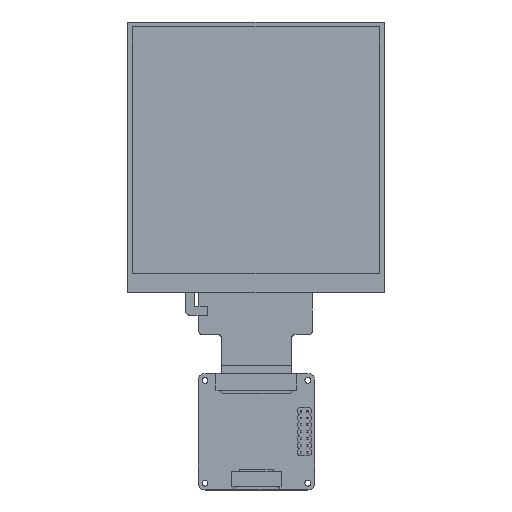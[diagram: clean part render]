
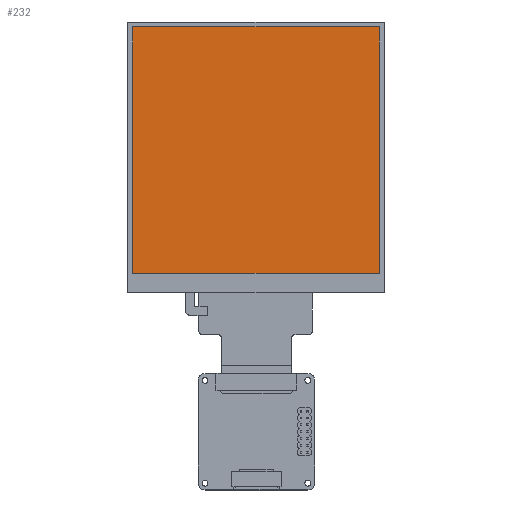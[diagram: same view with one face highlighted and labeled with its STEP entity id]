
A CAD part, top view. The second image highlights one B-rep face of the part: STEP entity #232.
In plain terms, the highlighted planar face has unit normal (0, 0, 1).
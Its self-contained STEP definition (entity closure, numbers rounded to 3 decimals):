
#80=DIRECTION('',(1.,0.,0.));
#81=VECTOR('',#80,71.93);
#82=CARTESIAN_POINT('',(-35.965,38.04,1.46));
#83=LINE('',#82,#81);
#84=DIRECTION('',(0.,1.,0.));
#85=VECTOR('',#84,71.93);
#86=CARTESIAN_POINT('',(-35.965,-33.89,1.46));
#87=LINE('',#86,#85);
#88=DIRECTION('',(-1.,0.,0.));
#89=VECTOR('',#88,71.93);
#90=CARTESIAN_POINT('',(35.965,-33.89,1.46));
#91=LINE('',#90,#89);
#92=DIRECTION('',(0.,-1.,0.));
#93=VECTOR('',#92,71.93);
#94=CARTESIAN_POINT('',(35.965,38.04,1.46));
#95=LINE('',#94,#93);
#112=CARTESIAN_POINT('',(-35.965,38.04,1.46));
#113=CARTESIAN_POINT('',(35.965,38.04,1.46));
#114=VERTEX_POINT('',#112);
#115=VERTEX_POINT('',#113);
#116=CARTESIAN_POINT('',(35.965,-33.89,1.46));
#117=VERTEX_POINT('',#116);
#118=CARTESIAN_POINT('',(-35.965,-33.89,1.46));
#119=VERTEX_POINT('',#118);
#221=CARTESIAN_POINT('',(0.,0.,1.46));
#222=DIRECTION('',(0.,0.,1.));
#223=DIRECTION('',(1.,0.,0.));
#224=AXIS2_PLACEMENT_3D('',#221,#222,#223);
#225=PLANE('',#224);
#226=ORIENTED_EDGE('',*,*,#203,.T.);
#227=ORIENTED_EDGE('',*,*,#209,.T.);
#228=ORIENTED_EDGE('',*,*,#207,.T.);
#229=ORIENTED_EDGE('',*,*,#205,.T.);
#230=EDGE_LOOP('',(#226,#227,#228,#229));
#231=FACE_OUTER_BOUND('',#230,.F.);
#203=EDGE_CURVE('',#114,#115,#83,.T.);
#205=EDGE_CURVE('',#119,#114,#87,.T.);
#207=EDGE_CURVE('',#117,#119,#91,.T.);
#209=EDGE_CURVE('',#115,#117,#95,.T.);
#232=ADVANCED_FACE('',(#231),#225,.T.);
